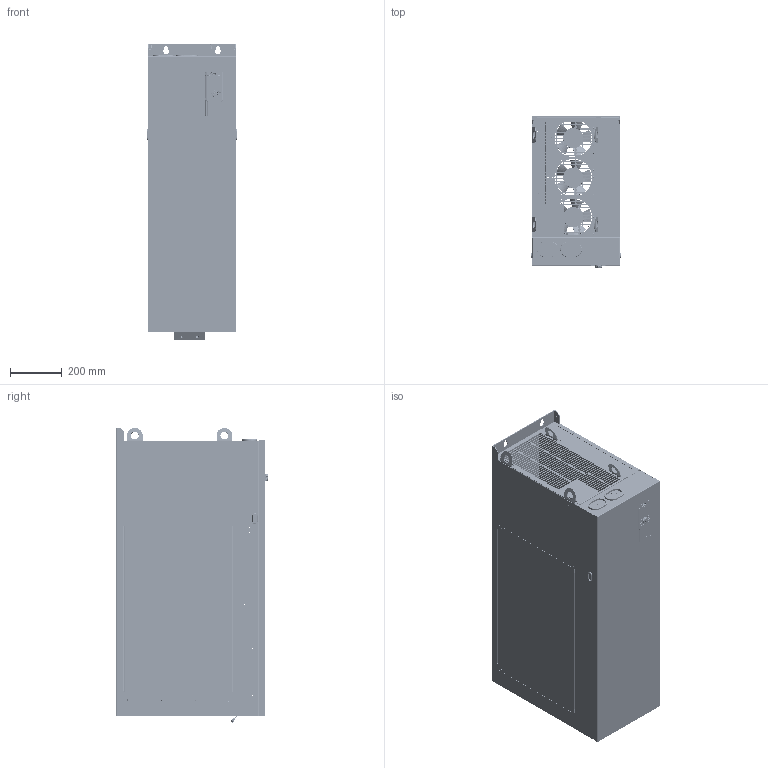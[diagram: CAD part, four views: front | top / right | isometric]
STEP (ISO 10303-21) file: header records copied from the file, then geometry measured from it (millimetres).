
FILE_DESCRIPTION((''),'2;1');
FILE_NAME('00-A8-280_ASM_336_ASM','2024-08-14T',('Administrator'),(''),'PRO/ENGINEER BY PARAMETRIC TECHNOLOGY CORPORATION, 2010280','PRO/ENGINEER BY PARAMETRIC TECHNOLOGY CORPORATION, 2010280','');
FILE_SCHEMA(('AUTOMOTIVE_DESIGN { 1 0 10303 214 1 1 1 1 }'));
Products named in the file (137): A8-280-01-01-01_146; NZ-M8-ZC_53; S-M4-ZC_58; A8-280-01-01-01_ASM_139_ASM; A8-280-01-01-03_184; BSO-M3-10-ZC_57; BSO-M4-10-ZC_57; BSO-3R5M3-6-ZC_57; BSO-3R5M3-35-ZC_2; A8-280-01-01-03_ASM_169_ASM; A8-280-01-01-04_202; FH-M6-12-ZC_45; BSO-3R5M3-28-ZC_2; A8-280-01-01-04_ASM_187_ASM; A8-280-01-01-05_63; A8-280-01-01-05_ASM_77_ASM; A8-280-01-01-06_59; A8-280-01-01-06_ASM_76_ASM; A8-280-01-01-08_55; A8-280-01-01-08_ASM_68_ASM; A8-280-01-01-09_59; A8-280-01-01-09_ASM_71_ASM; A8-280-01-01-10_53; A8-280-01-01-10_ASM_61_ASM; A8-280-01-01-11_49; A8-280-01-01-11_ASM_63_ASM; A8-280-01-01-13_20; A8-280-01-01-13_ASM_23_ASM; A8-280-01-01-14_3; A8-280-01-01-14_ASM_5_ASM; A8-280-01-01-15_3; A8-280-01-01-15_ASM_5_ASM; A8-280-01-01-16_2; A8-280-01-01-16_ASM_4_ASM; A8-280-01-01-17_4; A8-280-01-01-17_ASM_7_ASM; GB12617-90_4X8_30-R0_10_41; A8-280-01-01_ASM_255_ASM; A8-280-01-02_62; A8-280-01-02_ASM_71_ASM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
Assembly tree (465 placements, depth 6):
  00-A8-280_ASM_336_ASM
    A8-280-01_ASM_225_ASM
      A8-280-01-01_ASM_255_ASM
        A8-280-01-01-01_ASM_139_ASM
          A8-280-01-01-01_146
          NZ-M8-ZC_53  x4
          S-M4-ZC_58  x3
        A8-280-01-01-03_ASM_169_ASM
          A8-280-01-01-03_184
          BSO-M3-10-ZC_57  x7
          S-M4-ZC_58  x42
          NZ-M8-ZC_53  x4
          BSO-M4-10-ZC_57  x4
          BSO-3R5M3-6-ZC_57  x4
          BSO-3R5M3-35-ZC_2  x4
        A8-280-01-01-04_ASM_187_ASM
          A8-280-01-01-04_202
          S-M4-ZC_58  x6
          FH-M6-12-ZC_45  x13
          BSO-3R5M3-28-ZC_2  x4
        A8-280-01-01-05_ASM_77_ASM
          A8-280-01-01-05_63
        A8-280-01-01-06_ASM_76_ASM
          A8-280-01-01-06_59
          S-M4-ZC_58  x2
        A8-280-01-01-08_ASM_68_ASM
          A8-280-01-01-08_55
        A8-280-01-01-09_ASM_71_ASM
          A8-280-01-01-09_59
        A8-280-01-01-10_ASM_61_ASM
          A8-280-01-01-10_53
        A8-280-01-01-11_ASM_63_ASM  x11
          A8-280-01-01-11_49
          S-M4-ZC_58
        A8-280-01-01-13_ASM_23_ASM  x4
          A8-280-01-01-13_20
        A8-280-01-01-14_ASM_5_ASM
          A8-280-01-01-14_3
          S-M4-ZC_58  x3
        A8-280-01-01-15_ASM_5_ASM
          A8-280-01-01-15_3
          S-M4-ZC_58  x2
        A8-280-01-01-16_ASM_4_ASM
          A8-280-01-01-16_2
          S-M4-ZC_58
        A8-280-01-01-17_ASM_7_ASM  x2
          A8-280-01-01-17_4
          S-M4-ZC_58
        GB12617-90_4X8_30-R0_10_41  x137
      A8-280-01-02_ASM_71_ASM
        A8-280-01-02_62
        S-M4-ZC_58  x6
      A8-280-01-03_ASM_84_ASM
        A8-280-01-03-01_ASM_10_ASM
          A8-280-01-03_76
          TPS-4-8-ZC_56  x2
      A8-280-01-04_ASM_74_ASM
        A8-280-01-04_68
        TPS-4-8-ZC_56  x2
      A8-280-01-05_ASM_71_ASM
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Bounding box: 347 x 584.8 x 1140.64 mm (x, y, z)
Volume: 7913555.8 mm3; surface area: 8427992.8 mm2
Topology: 449 solids, 470 shells, 50681 faces, 148805 edges, 105477 vertices
Faces by surface type: plane 42006, cylinder 5381, cone 2551, torus 480, bspline 215, sphere 48
Entity records: 668518 total; most frequent: CARTESIAN_POINT 107007, DIRECTION 89747, ORIENTED_EDGE 79950, EDGE_CURVE 39981, VECTOR 35515, LINE 35515, PRESENTATION_STYLE_ASSIGNMENT 34520, STYLED_ITEM 34358
